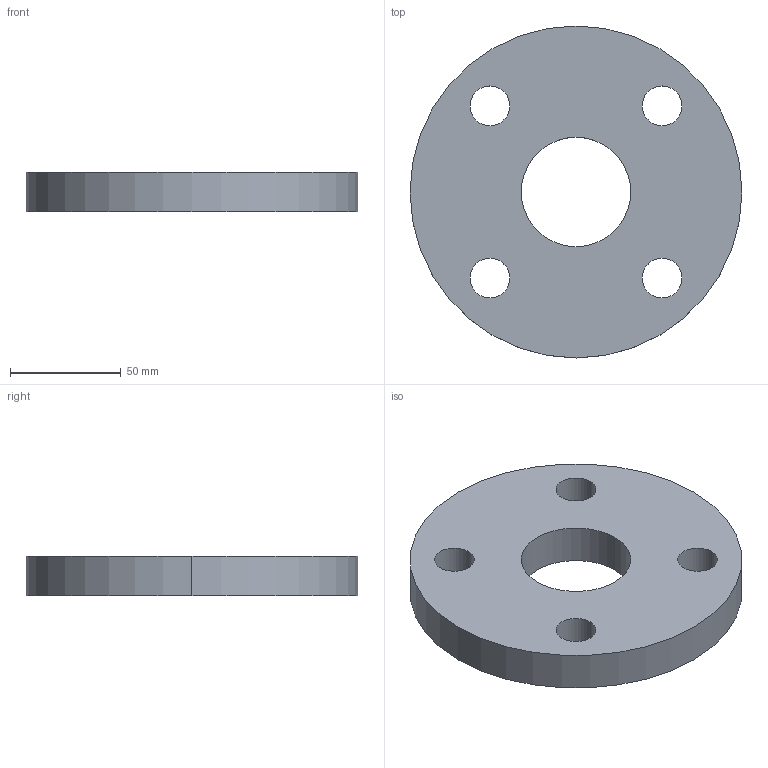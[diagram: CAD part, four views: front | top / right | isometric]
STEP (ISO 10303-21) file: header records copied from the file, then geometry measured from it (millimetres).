
FILE_DESCRIPTION (( 'STEP AP214' ), '1' );
FILE_NAME ('PN40 DN40 Type 01 - Type A Face.STEP', '2018-12-30T02:34:06', ( '' ), ( '' ), 'SwSTEP 2.0', 'SolidWorks 2019', '' );
FILE_SCHEMA (( 'AUTOMOTIVE_DESIGN' ));
Length unit declared in the file: millimetre
Products named in the file (1): PN40 DN40 Type 01 - Type A Face
Bounding box: 150 x 150 x 18 mm (x, y, z)
Volume: 265124.9 mm3; surface area: 44811.3 mm2
Topology: 1 solids, 1 shells, 14 faces, 36 edges, 24 vertices
Faces by surface type: cylinder 12, plane 2
Entity records: 498 total; most frequent: DIRECTION 90, CARTESIAN_POINT 75, ORIENTED_EDGE 72, AXIS2_PLACEMENT_3D 39, EDGE_CURVE 36, CIRCLE 24, VERTEX_POINT 24, EDGE_LOOP 24
